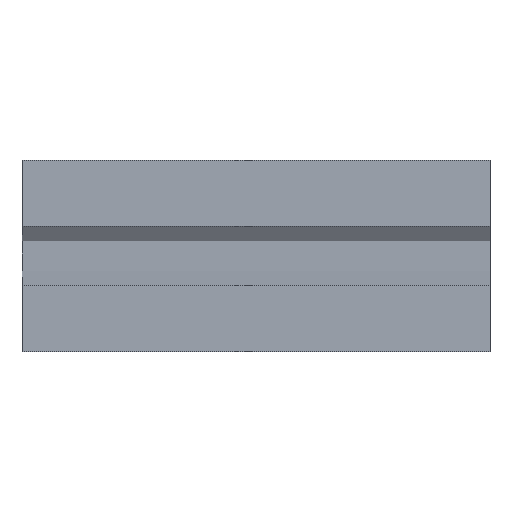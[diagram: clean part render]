
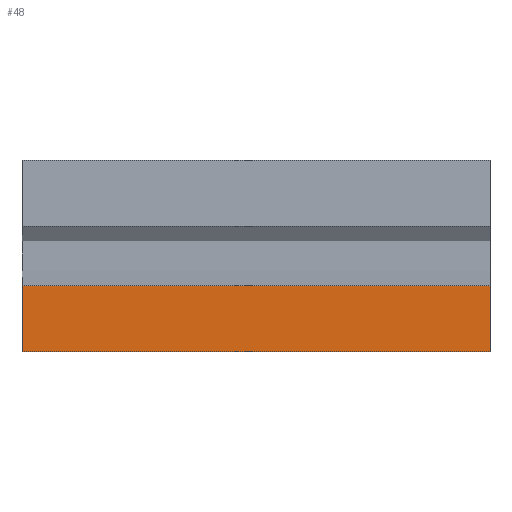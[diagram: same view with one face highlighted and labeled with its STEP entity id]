
A CAD part, top view. The second image highlights one B-rep face of the part: STEP entity #48.
In plain terms, the highlighted planar face has unit normal (0, 0, 1).
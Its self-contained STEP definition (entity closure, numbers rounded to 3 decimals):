
#48 = ADVANCED_FACE ( 'NONE', ( #419 ), #308, .F. ) ;
#49 = ORIENTED_EDGE ( 'NONE', *, *, #50, .F. ) ;
#50 = EDGE_CURVE ( 'NONE', #94, #72, #348, .T. ) ;
#51 = EDGE_CURVE ( 'NONE', #52, #72, #341, .T. ) ;
#52 = VERTEX_POINT ( 'NONE', #313 ) ;
#55 = ORIENTED_EDGE ( 'NONE', *, *, #96, .F. ) ;
#60 = EDGE_LOOP ( 'NONE', ( #62, #49, #55, #366 ) ) ;
#62 = ORIENTED_EDGE ( 'NONE', *, *, #51, .T. ) ;
#72 = VERTEX_POINT ( 'NONE', #294 ) ;
#94 = VERTEX_POINT ( 'NONE', #298 ) ;
#96 = EDGE_CURVE ( 'NONE', #361, #94, #229, .T. ) ;
#226 = DIRECTION ( 'NONE',  ( 0., -1., 0. ) ) ;
#227 = VECTOR ( 'NONE', #226, 1000. ) ;
#228 = CARTESIAN_POINT ( 'NONE',  ( 100., -6.36, 12. ) ) ;
#229 = LINE ( 'NONE', #228, #227 ) ;
#275 = AXIS2_PLACEMENT_3D ( 'NONE', #416, #420, #347 ) ;
#294 = CARTESIAN_POINT ( 'NONE',  ( 0., -20.5, 12. ) ) ;
#298 = CARTESIAN_POINT ( 'NONE',  ( 100., -20.5, 12. ) ) ;
#305 = VECTOR ( 'NONE', #342, 1000. ) ;
#306 = CARTESIAN_POINT ( 'NONE',  ( 100., -20.5, 12. ) ) ;
#308 = PLANE ( 'NONE',  #275 ) ;
#313 = CARTESIAN_POINT ( 'NONE',  ( 0., -6.36, 12. ) ) ;
#338 = DIRECTION ( 'NONE',  ( 0., -1., 0. ) ) ;
#339 = VECTOR ( 'NONE', #338, 1000. ) ;
#340 = CARTESIAN_POINT ( 'NONE',  ( 0., -6.36, 12. ) ) ;
#341 = LINE ( 'NONE', #340, #339 ) ;
#342 = DIRECTION ( 'NONE',  ( -1., 0., 0. ) ) ;
#347 = DIRECTION ( 'NONE',  ( -1., 0., 0. ) ) ;
#348 = LINE ( 'NONE', #306, #305 ) ;
#360 = EDGE_CURVE ( 'NONE', #361, #52, #461, .T. ) ;
#361 = VERTEX_POINT ( 'NONE', #576 ) ;
#366 = ORIENTED_EDGE ( 'NONE', *, *, #360, .T. ) ;
#416 = CARTESIAN_POINT ( 'NONE',  ( 100., -6.36, 12. ) ) ;
#419 = FACE_OUTER_BOUND ( 'NONE', #60, .T. ) ;
#420 = DIRECTION ( 'NONE',  ( 0., 0., -1. ) ) ;
#461 = LINE ( 'NONE', #571, #570 ) ;
#569 = DIRECTION ( 'NONE',  ( -1., 0., 0. ) ) ;
#570 = VECTOR ( 'NONE', #569, 1000. ) ;
#571 = CARTESIAN_POINT ( 'NONE',  ( 100., -6.36, 12. ) ) ;
#576 = CARTESIAN_POINT ( 'NONE',  ( 100., -6.36, 12. ) ) ;
